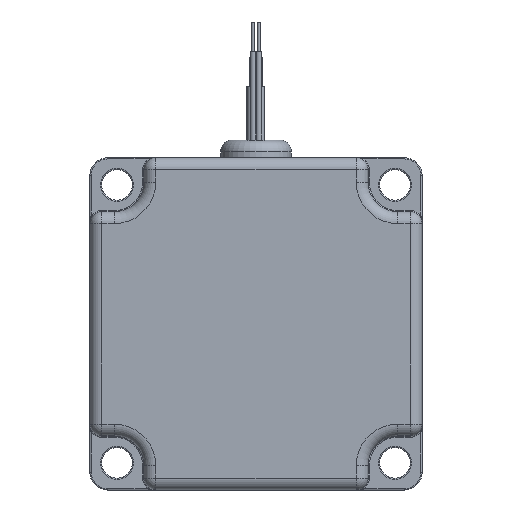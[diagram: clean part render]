
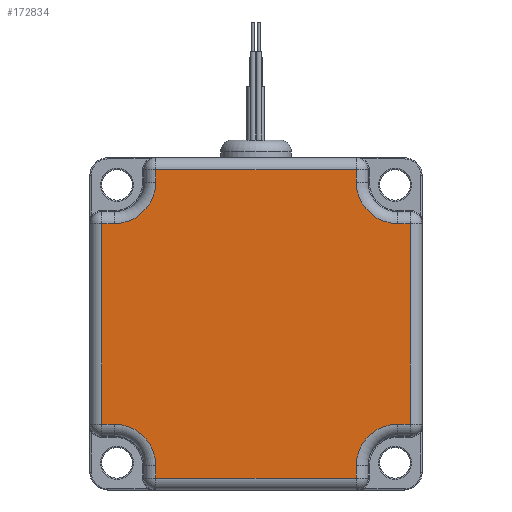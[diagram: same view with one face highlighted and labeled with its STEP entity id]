
A CAD part, front view. The second image highlights one B-rep face of the part: STEP entity #172834.
In plain terms, the highlighted planar face has unit normal (0, -1, 0).
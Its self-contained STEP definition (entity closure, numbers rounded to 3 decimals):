
#1600 = DIRECTION ( 'NONE',  ( 0., 0., -1. ) ) ;
#2024 = EDGE_CURVE ( 'NONE', #139554, #72826, #10199, .T. ) ;
#2103 = EDGE_CURVE ( 'NONE', #29250, #60248, #168046, .T. ) ;
#2521 = CARTESIAN_POINT ( 'NONE',  ( 17., -40., -24. ) ) ;
#2994 = CARTESIAN_POINT ( 'NONE',  ( -17., -40., 26.15 ) ) ;
#4821 = DIRECTION ( 'NONE',  ( 0., 0., -1. ) ) ;
#5094 = LINE ( 'NONE', #125057, #111186 ) ;
#5297 = CARTESIAN_POINT ( 'NONE',  ( 0., -40., -17. ) ) ;
#5684 = CARTESIAN_POINT ( 'NONE',  ( 24., -40., 24. ) ) ;
#5932 = DIRECTION ( 'NONE',  ( -1., 0., 0. ) ) ;
#7006 = DIRECTION ( 'NONE',  ( 0., 0., -1. ) ) ;
#10199 = LINE ( 'NONE', #72813, #168064 ) ;
#12683 = EDGE_CURVE ( 'NONE', #69500, #106330, #96317, .T. ) ;
#12811 = VERTEX_POINT ( 'NONE', #90526 ) ;
#13048 = ORIENTED_EDGE ( 'NONE', *, *, #180811, .T. ) ;
#13073 = EDGE_CURVE ( 'NONE', #29325, #117736, #179338, .T. ) ;
#13206 = VERTEX_POINT ( 'NONE', #54521 ) ;
#17328 = DIRECTION ( 'NONE',  ( 0., 0., 1. ) ) ;
#17973 = ORIENTED_EDGE ( 'NONE', *, *, #149723, .T. ) ;
#19546 = LINE ( 'NONE', #187435, #99558 ) ;
#20380 = CARTESIAN_POINT ( 'NONE',  ( 24., -40., 17. ) ) ;
#21497 = PLANE ( 'NONE',  #158747 ) ;
#23446 = DIRECTION ( 'NONE',  ( 0., 0., -1. ) ) ;
#26542 = AXIS2_PLACEMENT_3D ( 'NONE', #149668, #32688, #168268 ) ;
#27007 = AXIS2_PLACEMENT_3D ( 'NONE', #167298, #61232, #32716 ) ;
#27939 = ORIENTED_EDGE ( 'NONE', *, *, #41915, .T. ) ;
#28897 = EDGE_CURVE ( 'NONE', #72826, #29250, #63894, .T. ) ;
#29161 = EDGE_CURVE ( 'NONE', #107386, #81566, #5094, .T. ) ;
#29250 = VERTEX_POINT ( 'NONE', #110196 ) ;
#29325 = VERTEX_POINT ( 'NONE', #160960 ) ;
#29758 = DIRECTION ( 'NONE',  ( -1., 0., 0. ) ) ;
#30801 = EDGE_CURVE ( 'NONE', #40775, #132110, #19546, .T. ) ;
#32688 = DIRECTION ( 'NONE',  ( 0., 1., 0. ) ) ;
#32716 = DIRECTION ( 'NONE',  ( 0., 0., -1. ) ) ;
#33429 = DIRECTION ( 'NONE',  ( 1., 0., 0. ) ) ;
#33805 = CARTESIAN_POINT ( 'NONE',  ( -26.15, -40., 17. ) ) ;
#35495 = ORIENTED_EDGE ( 'NONE', *, *, #191382, .T. ) ;
#35746 = VECTOR ( 'NONE', #156904, 1000. ) ;
#40098 = FACE_OUTER_BOUND ( 'NONE', #58093, .T. ) ;
#40775 = VERTEX_POINT ( 'NONE', #130727 ) ;
#41245 = DIRECTION ( 'NONE',  ( -1., 0., 0. ) ) ;
#41915 = EDGE_CURVE ( 'NONE', #106330, #29325, #134686, .T. ) ;
#45837 = CARTESIAN_POINT ( 'NONE',  ( 26.15, -40., -17. ) ) ;
#49819 = AXIS2_PLACEMENT_3D ( 'NONE', #5684, #125653, #185386 ) ;
#51400 = ORIENTED_EDGE ( 'NONE', *, *, #29161, .T. ) ;
#52649 = ORIENTED_EDGE ( 'NONE', *, *, #152681, .T. ) ;
#54521 = CARTESIAN_POINT ( 'NONE',  ( -24., -40., 17. ) ) ;
#55664 = CARTESIAN_POINT ( 'NONE',  ( 26.15, -40., 0. ) ) ;
#56389 = VERTEX_POINT ( 'NONE', #2994 ) ;
#58093 = EDGE_LOOP ( 'NONE', ( #64852, #17973, #118330, #118555, #147881, #185450, #189665, #27939, #63697, #70163, #121318, #52649, #35495, #51400, #13048, #80058 ) ) ;
#60248 = VERTEX_POINT ( 'NONE', #45837 ) ;
#61232 = DIRECTION ( 'NONE',  ( 0., 1., 0. ) ) ;
#63697 = ORIENTED_EDGE ( 'NONE', *, *, #13073, .T. ) ;
#63894 = CIRCLE ( 'NONE', #158003, 7. ) ;
#64852 = ORIENTED_EDGE ( 'NONE', *, *, #30801, .T. ) ;
#65198 = DIRECTION ( 'NONE',  ( 1., 0., 0. ) ) ;
#65706 = DIRECTION ( 'NONE',  ( 0., -1., 0. ) ) ;
#67793 = CARTESIAN_POINT ( 'NONE',  ( 0., -40., 17. ) ) ;
#69500 = VERTEX_POINT ( 'NONE', #140601 ) ;
#70163 = ORIENTED_EDGE ( 'NONE', *, *, #136523, .T. ) ;
#72813 = CARTESIAN_POINT ( 'NONE',  ( 17., -40., 0. ) ) ;
#72826 = VERTEX_POINT ( 'NONE', #2521 ) ;
#73550 = CIRCLE ( 'NONE', #26542, 7. ) ;
#76289 = LINE ( 'NONE', #151928, #161805 ) ;
#78166 = VECTOR ( 'NONE', #17328, 1000. ) ;
#78612 = CARTESIAN_POINT ( 'NONE',  ( -26.15, -40., -17. ) ) ;
#80058 = ORIENTED_EDGE ( 'NONE', *, *, #191418, .T. ) ;
#81439 = CARTESIAN_POINT ( 'NONE',  ( 0., -40., 0. ) ) ;
#81566 = VERTEX_POINT ( 'NONE', #78612 ) ;
#82879 = DIRECTION ( 'NONE',  ( 0., 1., 0. ) ) ;
#83871 = DIRECTION ( 'NONE',  ( 0., 0., -1. ) ) ;
#90526 = CARTESIAN_POINT ( 'NONE',  ( -24., -40., -17. ) ) ;
#91968 = CARTESIAN_POINT ( 'NONE',  ( 17., -40., 28.15 ) ) ;
#95250 = CARTESIAN_POINT ( 'NONE',  ( 28.15, -40., -17. ) ) ;
#95860 = CARTESIAN_POINT ( 'NONE',  ( 19., -40., -26.15 ) ) ;
#96317 = LINE ( 'NONE', #67793, #152929 ) ;
#98898 = LINE ( 'NONE', #55664, #35746 ) ;
#99558 = VECTOR ( 'NONE', #4821, 1000. ) ;
#100002 = VECTOR ( 'NONE', #41245, 1000. ) ;
#101196 = LINE ( 'NONE', #174842, #100002 ) ;
#102119 = VECTOR ( 'NONE', #33429, 1000. ) ;
#106330 = VERTEX_POINT ( 'NONE', #20380 ) ;
#107386 = VERTEX_POINT ( 'NONE', #33805 ) ;
#109667 = LINE ( 'NONE', #95860, #166858 ) ;
#110196 = CARTESIAN_POINT ( 'NONE',  ( 24., -40., -17. ) ) ;
#111186 = VECTOR ( 'NONE', #7006, 1000. ) ;
#111420 = CARTESIAN_POINT ( 'NONE',  ( 24., -40., -24. ) ) ;
#111602 = DIRECTION ( 'NONE',  ( 1., 0., 0. ) ) ;
#111746 = CIRCLE ( 'NONE', #27007, 7. ) ;
#117736 = VERTEX_POINT ( 'NONE', #189079 ) ;
#118330 = ORIENTED_EDGE ( 'NONE', *, *, #2024, .T. ) ;
#118555 = ORIENTED_EDGE ( 'NONE', *, *, #28897, .T. ) ;
#118974 = CARTESIAN_POINT ( 'NONE',  ( -17., -40., 24. ) ) ;
#119059 = DIRECTION ( 'NONE',  ( 0., 0., 1. ) ) ;
#119707 = VECTOR ( 'NONE', #65198, 1000. ) ;
#120284 = EDGE_CURVE ( 'NONE', #56389, #162689, #76289, .T. ) ;
#121318 = ORIENTED_EDGE ( 'NONE', *, *, #120284, .T. ) ;
#125057 = CARTESIAN_POINT ( 'NONE',  ( -26.15, -40., -19. ) ) ;
#125304 = CARTESIAN_POINT ( 'NONE',  ( -17., -40., -26.15 ) ) ;
#125653 = DIRECTION ( 'NONE',  ( 0., 1., 0. ) ) ;
#126835 = VECTOR ( 'NONE', #29758, 1000. ) ;
#130171 = LINE ( 'NONE', #134042, #126835 ) ;
#130727 = CARTESIAN_POINT ( 'NONE',  ( -17., -40., -24. ) ) ;
#132110 = VERTEX_POINT ( 'NONE', #125304 ) ;
#134042 = CARTESIAN_POINT ( 'NONE',  ( -28.15, -40., 17. ) ) ;
#134686 = CIRCLE ( 'NONE', #49819, 7. ) ;
#136523 = EDGE_CURVE ( 'NONE', #117736, #56389, #101196, .T. ) ;
#139554 = VERTEX_POINT ( 'NONE', #166415 ) ;
#139941 = LINE ( 'NONE', #5297, #119707 ) ;
#140601 = CARTESIAN_POINT ( 'NONE',  ( 26.15, -40., 17. ) ) ;
#147881 = ORIENTED_EDGE ( 'NONE', *, *, #2103, .T. ) ;
#149668 = CARTESIAN_POINT ( 'NONE',  ( -24., -40., -24. ) ) ;
#149723 = EDGE_CURVE ( 'NONE', #132110, #139554, #109667, .T. ) ;
#151928 = CARTESIAN_POINT ( 'NONE',  ( -17., -40., 0. ) ) ;
#152681 = EDGE_CURVE ( 'NONE', #162689, #13206, #111746, .T. ) ;
#152929 = VECTOR ( 'NONE', #5932, 1000. ) ;
#156406 = EDGE_CURVE ( 'NONE', #60248, #69500, #98898, .T. ) ;
#156904 = DIRECTION ( 'NONE',  ( 0., 0., 1. ) ) ;
#158003 = AXIS2_PLACEMENT_3D ( 'NONE', #111420, #82879, #83871 ) ;
#158747 = AXIS2_PLACEMENT_3D ( 'NONE', #81439, #65706, #23446 ) ;
#160960 = CARTESIAN_POINT ( 'NONE',  ( 17., -40., 24. ) ) ;
#161805 = VECTOR ( 'NONE', #1600, 1000. ) ;
#162689 = VERTEX_POINT ( 'NONE', #118974 ) ;
#166415 = CARTESIAN_POINT ( 'NONE',  ( 17., -40., -26.15 ) ) ;
#166858 = VECTOR ( 'NONE', #111602, 1000. ) ;
#167298 = CARTESIAN_POINT ( 'NONE',  ( -24., -40., 24. ) ) ;
#168046 = LINE ( 'NONE', #95250, #102119 ) ;
#168064 = VECTOR ( 'NONE', #119059, 1000. ) ;
#168268 = DIRECTION ( 'NONE',  ( 0., 0., -1. ) ) ;
#172834 = ADVANCED_FACE ( 'NONE', ( #40098 ), #21497, .T. ) ;
#174842 = CARTESIAN_POINT ( 'NONE',  ( 0., -40., 26.15 ) ) ;
#179338 = LINE ( 'NONE', #91968, #78166 ) ;
#180811 = EDGE_CURVE ( 'NONE', #81566, #12811, #139941, .T. ) ;
#185386 = DIRECTION ( 'NONE',  ( 0., 0., -1. ) ) ;
#185450 = ORIENTED_EDGE ( 'NONE', *, *, #156406, .T. ) ;
#187435 = CARTESIAN_POINT ( 'NONE',  ( -17., -40., -28.15 ) ) ;
#189079 = CARTESIAN_POINT ( 'NONE',  ( 17., -40., 26.15 ) ) ;
#189665 = ORIENTED_EDGE ( 'NONE', *, *, #12683, .T. ) ;
#191382 = EDGE_CURVE ( 'NONE', #13206, #107386, #130171, .T. ) ;
#191418 = EDGE_CURVE ( 'NONE', #12811, #40775, #73550, .T. ) ;
